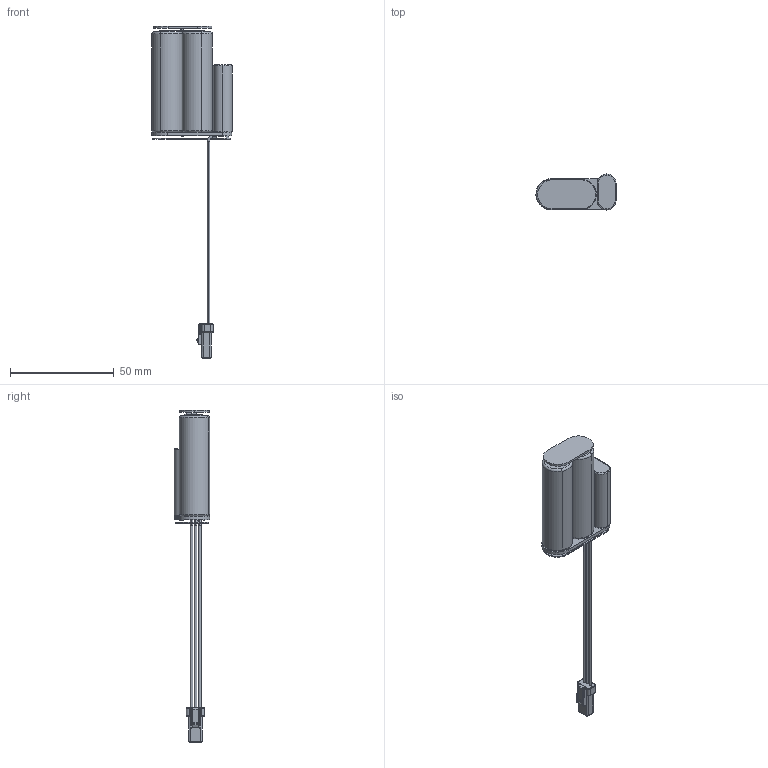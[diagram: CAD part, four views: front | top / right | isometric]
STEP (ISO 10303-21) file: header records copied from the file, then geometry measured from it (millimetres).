
FILE_DESCRIPTION (( 'STEP AP203' ), '1' );
FILE_NAME ('M3-153702B Montage 1S2P LS14500 sur PCB sortie connecteur JST.STEP', '2015-11-06T11:20:00', ( 'Renault' ), ( '' ), 'SwSTEP 2.0', 'SolidWorks 2013', '' );
FILE_SCHEMA (( 'CONFIG_CONTROL_DESIGN' ));
Length unit declared in the file: millimetre
Products named in the file (15): Fil; fil de sortie 2; PCB V2; fil de sortie 3; M3-153702B Montage 1S2P LS14500 sur PCB sortie connecteur JST; Flasque dessous; SC POWERSTORE PHB-5R0V305-R; LS14500; Flasque de protection PCB V3; CONNECTION 20 x 5; fil de sortie; CONNECTION  SOUDEE PCB 20 x 5; JST 03R-JWPF-VSLE-S; Boitier 1206; limande 100mm  JST 03R-JWPF-VSLE-S
Assembly tree (15 placements, depth 3):
  M3-153702B Montage 1S2P LS14500 sur PCB sortie connecteur JST
    Flasque de protection PCB V3
    fil de sortie
    limande 100mm  JST 03R-JWPF-VSLE-S
      JST 03R-JWPF-VSLE-S
    fil de sortie 2
    fil de sortie 3
    Flasque dessous
    SC POWERSTORE PHB-5R0V305-R
    LS14500  x2
    CONNECTION 20 x 5
    CONNECTION  SOUDEE PCB 20 x 5
    Boitier 1206
    Fil
    PCB V2
Bounding box: 38.64 x 17.3 x 159.95 mm (x, y, z)
Volume: 22931.6 mm3; surface area: 12638.7 mm2
Topology: 17 solids, 17 shells, 438 faces, 1036 edges, 647 vertices
Faces by surface type: plane 196, cylinder 155, torus 32, bspline 31, cone 24
Entity records: 14198 total; most frequent: CARTESIAN_POINT 2759, DIRECTION 2137, ORIENTED_EDGE 1988, EDGE_CURVE 994, AXIS2_PLACEMENT_3D 780, VERTEX_POINT 625, LINE 577, VECTOR 577
